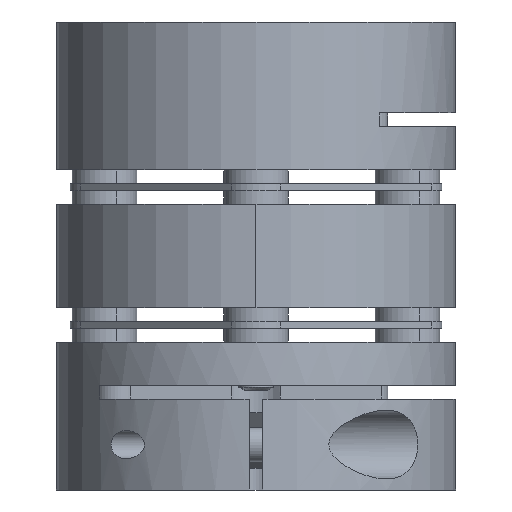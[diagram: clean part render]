
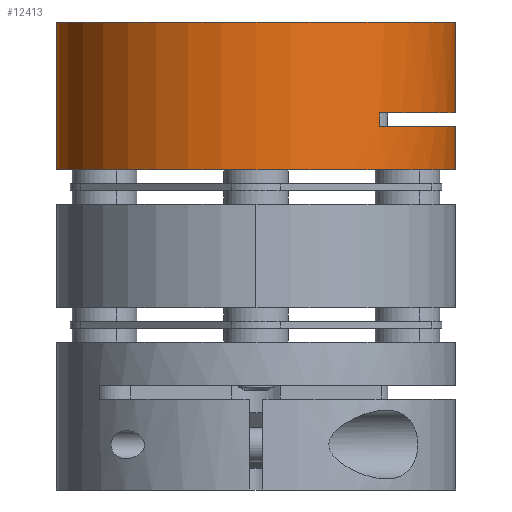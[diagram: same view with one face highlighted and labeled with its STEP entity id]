
A CAD part, front view. The second image highlights one B-rep face of the part: STEP entity #12413.
In plain terms, the highlighted cylindrical face has radius 14.5 mm (diameter 29 mm), a partial arc.
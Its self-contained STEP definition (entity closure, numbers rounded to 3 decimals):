
#134 = CIRCLE ( 'NONE', #17715, 14.5 ) ;
#418 = CARTESIAN_POINT ( 'NONE',  ( 26.527, 83.081, 61.693 ) ) ;
#702 = VERTEX_POINT ( 'NONE', #12178 ) ;
#748 = DIRECTION ( 'NONE',  ( 0., 0., -1. ) ) ;
#810 = DIRECTION ( 'NONE',  ( -1., 0., 0. ) ) ;
#1945 = CIRCLE ( 'NONE', #2907, 14.5 ) ;
#2016 = DIRECTION ( 'NONE',  ( -1., 0., 0. ) ) ;
#2078 = DIRECTION ( 'NONE',  ( 0., 0., -1. ) ) ;
#2140 = CARTESIAN_POINT ( 'NONE',  ( 41.027, 83.081, 68.293 ) ) ;
#2292 = CYLINDRICAL_SURFACE ( 'NONE', #4074, 14.5 ) ;
#2907 = AXIS2_PLACEMENT_3D ( 'NONE', #7775, #19101, #9420 ) ;
#3881 = ORIENTED_EDGE ( 'NONE', *, *, #14134, .F. ) ;
#3945 = CARTESIAN_POINT ( 'NONE',  ( 41.027, 83.081, 57.543 ) ) ;
#4074 = AXIS2_PLACEMENT_3D ( 'NONE', #15098, #748, #810 ) ;
#4595 = LINE ( 'NONE', #18797, #8307 ) ;
#4601 = CARTESIAN_POINT ( 'NONE',  ( 41.027, 83.081, 68.293 ) ) ;
#4741 = CARTESIAN_POINT ( 'NONE',  ( 26.527, 83.081, 57.543 ) ) ;
#4843 = CARTESIAN_POINT ( 'NONE',  ( 41.027, 83.081, 68.293 ) ) ;
#4853 = CARTESIAN_POINT ( 'NONE',  ( 35.529, 71.713, 61.693 ) ) ;
#5402 = DIRECTION ( 'NONE',  ( 0., 0., -1. ) ) ;
#5741 = CARTESIAN_POINT ( 'NONE',  ( 41.027, 83.081, 61.693 ) ) ;
#6305 = DIRECTION ( 'NONE',  ( 1., 0., 0. ) ) ;
#7214 = VECTOR ( 'NONE', #14912, 1000. ) ;
#7585 = EDGE_LOOP ( 'NONE', ( #9321, #14648, #10857, #11890, #3881, #12375, #17706, #9590 ) ) ;
#7722 = LINE ( 'NONE', #2140, #7214 ) ;
#7775 = CARTESIAN_POINT ( 'NONE',  ( 26.527, 83.081, 68.293 ) ) ;
#8307 = VECTOR ( 'NONE', #13942, 1000. ) ;
#9321 = ORIENTED_EDGE ( 'NONE', *, *, #13424, .F. ) ;
#9420 = DIRECTION ( 'NONE',  ( 1., 0., 0. ) ) ;
#9590 = ORIENTED_EDGE ( 'NONE', *, *, #15413, .F. ) ;
#10359 = AXIS2_PLACEMENT_3D ( 'NONE', #4741, #15992, #6305 ) ;
#10857 = ORIENTED_EDGE ( 'NONE', *, *, #14279, .T. ) ;
#11338 = VERTEX_POINT ( 'NONE', #16188 ) ;
#11525 = DIRECTION ( 'NONE',  ( 0., 0., -1. ) ) ;
#11868 = VERTEX_POINT ( 'NONE', #3945 ) ;
#11890 = ORIENTED_EDGE ( 'NONE', *, *, #14848, .T. ) ;
#11893 = VERTEX_POINT ( 'NONE', #18555 ) ;
#12178 = CARTESIAN_POINT ( 'NONE',  ( 12.027, 83.081, 68.293 ) ) ;
#12221 = LINE ( 'NONE', #4601, #16521 ) ;
#12244 = FACE_OUTER_BOUND ( 'NONE', #7585, .T. ) ;
#12375 = ORIENTED_EDGE ( 'NONE', *, *, #15023, .T. ) ;
#12413 = ADVANCED_FACE ( 'NONE', ( #12244 ), #2292, .T. ) ;
#12648 = CIRCLE ( 'NONE', #10359, 14.5 ) ;
#13147 = CIRCLE ( 'NONE', #17136, 14.5 ) ;
#13209 = CARTESIAN_POINT ( 'NONE',  ( 12.027, 83.081, 68.293 ) ) ;
#13424 = EDGE_CURVE ( 'NONE', #20339, #15129, #7722, .T. ) ;
#13511 = LINE ( 'NONE', #13209, #17817 ) ;
#13942 = DIRECTION ( 'NONE',  ( 0., 0., -1. ) ) ;
#14134 = EDGE_CURVE ( 'NONE', #11893, #11868, #12221, .T. ) ;
#14279 = EDGE_CURVE ( 'NONE', #702, #17436, #13511, .T. ) ;
#14648 = ORIENTED_EDGE ( 'NONE', *, *, #14816, .F. ) ;
#14816 = EDGE_CURVE ( 'NONE', #702, #20339, #1945, .T. ) ;
#14848 = EDGE_CURVE ( 'NONE', #17436, #11868, #12648, .T. ) ;
#14912 = DIRECTION ( 'NONE',  ( 0., 0., -1. ) ) ;
#15023 = EDGE_CURVE ( 'NONE', #11893, #11338, #13147, .T. ) ;
#15064 = CARTESIAN_POINT ( 'NONE',  ( 26.527, 83.081, 60.693 ) ) ;
#15098 = CARTESIAN_POINT ( 'NONE',  ( 26.527, 83.081, 68.293 ) ) ;
#15129 = VERTEX_POINT ( 'NONE', #5741 ) ;
#15177 = EDGE_CURVE ( 'NONE', #16932, #11338, #4595, .T. ) ;
#15413 = EDGE_CURVE ( 'NONE', #15129, #16932, #134, .T. ) ;
#15992 = DIRECTION ( 'NONE',  ( 0., 0., 1. ) ) ;
#16188 = CARTESIAN_POINT ( 'NONE',  ( 35.529, 71.713, 60.693 ) ) ;
#16521 = VECTOR ( 'NONE', #17473, 1000. ) ;
#16700 = DIRECTION ( 'NONE',  ( -1., 0., 0. ) ) ;
#16932 = VERTEX_POINT ( 'NONE', #4853 ) ;
#17136 = AXIS2_PLACEMENT_3D ( 'NONE', #15064, #5402, #16700 ) ;
#17436 = VERTEX_POINT ( 'NONE', #19486 ) ;
#17473 = DIRECTION ( 'NONE',  ( 0., 0., -1. ) ) ;
#17706 = ORIENTED_EDGE ( 'NONE', *, *, #15177, .F. ) ;
#17715 = AXIS2_PLACEMENT_3D ( 'NONE', #418, #11525, #2016 ) ;
#17817 = VECTOR ( 'NONE', #2078, 1000. ) ;
#18555 = CARTESIAN_POINT ( 'NONE',  ( 41.027, 83.081, 60.693 ) ) ;
#18797 = CARTESIAN_POINT ( 'NONE',  ( 35.529, 71.713, 61.693 ) ) ;
#19101 = DIRECTION ( 'NONE',  ( 0., 0., 1. ) ) ;
#19486 = CARTESIAN_POINT ( 'NONE',  ( 12.027, 83.081, 57.543 ) ) ;
#20339 = VERTEX_POINT ( 'NONE', #4843 ) ;
